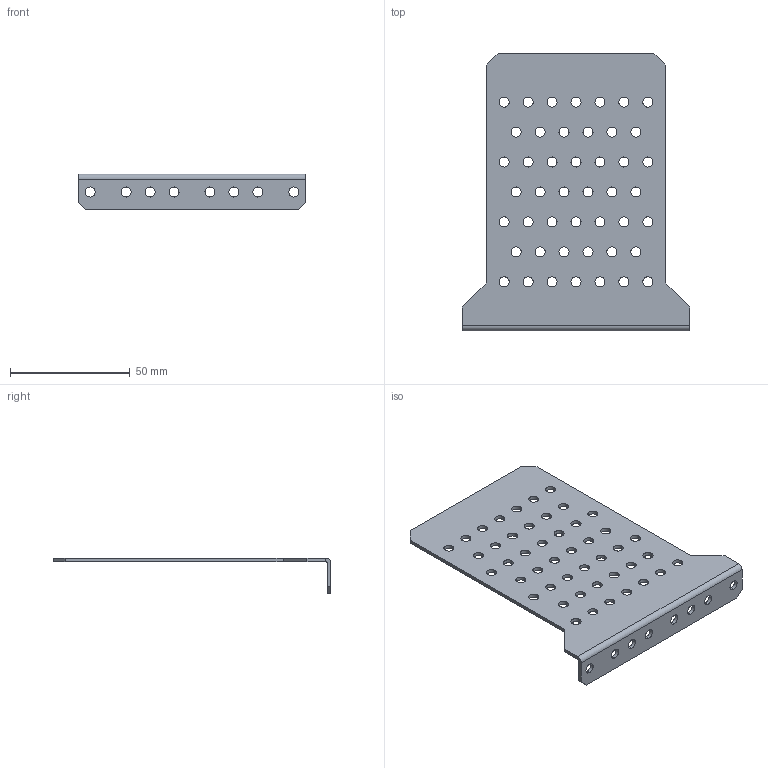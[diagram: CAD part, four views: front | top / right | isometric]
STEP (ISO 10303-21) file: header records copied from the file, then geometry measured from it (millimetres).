
FILE_DESCRIPTION(('CAx-IF Rec.Pracs.---Model Styling and Organization---1.2---2011-12-15','CAx-IF Rec.Pracs.---Geometric and Assembly Validation Properties---4.1---2014-06-16','CAx-IF Rec.Pracs.---PMI Polyline Presentation---2.0---2013-05-24'),'2;1');
FILE_NAME('R5M2W3M3BP.stp','2021-05-05T12:16:15+03:00',(''),(''),'STEP Interface 4.4 by CT CoreTechnologie','3D_Evolution4.4 by CT CoreTechnologie','');
FILE_SCHEMA(('AUTOMOTIVE_DESIGN { 1 0 10303 214 1 1 1 1 }'));
Length unit declared in the file: millimetre
Products named in the file (2): R5M2W3M3BP; RB.1200.00.00.0_-01
Assembly tree (1 placements, depth 2):
  R5M2W3M3BP
    RB.1200.00.00.0_-01
Bounding box: 95 x 116 x 15 mm (x, y, z)
Surface area: 20599.5 mm2 (no closed solid volume)
Topology: 0 solids, 1 shells, 128 faces, 374 edges, 248 vertices
Faces by surface type: cylinder 110, plane 18
Entity records: 4655 total; most frequent: DIRECTION 854, CARTESIAN_POINT 752, ORIENTED_EDGE 748, EDGE_CURVE 374, AXIS2_PLACEMENT_3D 350, VERTEX_POINT 248, EDGE_LOOP 236, CIRCLE 220
